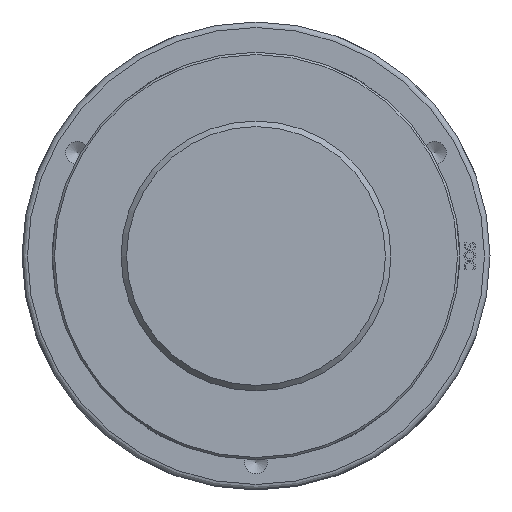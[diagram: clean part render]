
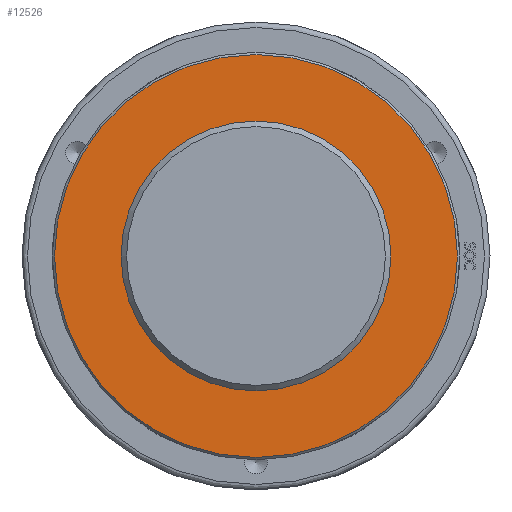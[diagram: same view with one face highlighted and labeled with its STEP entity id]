
A CAD part, front view. The second image highlights one B-rep face of the part: STEP entity #12526.
In plain terms, the highlighted planar face has unit normal (0, -1, 0) as drawn and (0, 1, 0) by its records, which use the part's own axes.
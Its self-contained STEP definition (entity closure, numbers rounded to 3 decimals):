
#90=CIRCLE('',#13195,183.);
#92=CIRCLE('',#13199,119.253);
#173=FACE_BOUND('',#1685,.T.);
#427=PLANE('',#13198);
#926=FACE_OUTER_BOUND('',#1684,.T.);
#1684=EDGE_LOOP('',(#9956));
#1685=EDGE_LOOP('',(#9957));
#5678=VERTEX_POINT('',#19082);
#5692=VERTEX_POINT('',#19322);
#7219=EDGE_CURVE('',#5678,#5678,#90,.T.);
#7233=EDGE_CURVE('',#5692,#5692,#92,.T.);
#9956=ORIENTED_EDGE('',*,*,#7219,.F.);
#9957=ORIENTED_EDGE('',*,*,#7233,.T.);
#12526=ADVANCED_FACE('',(#926,#173),#427,.T.);
#13195=AXIS2_PLACEMENT_3D('',#19083,#14450,#14451);
#13198=AXIS2_PLACEMENT_3D('',#19321,#14456,#14457);
#13199=AXIS2_PLACEMENT_3D('',#19323,#14458,#14459);
#14450=DIRECTION('center_axis',(0.,-1.,0.));
#14451=DIRECTION('ref_axis',(1.,0.,0.));
#14456=DIRECTION('center_axis',(0.,1.,0.));
#14457=DIRECTION('ref_axis',(0.,0.,1.));
#14458=DIRECTION('center_axis',(0.,-1.,0.));
#14459=DIRECTION('ref_axis',(1.,0.,0.));
#19082=CARTESIAN_POINT('',(-183.,122.5,0.));
#19083=CARTESIAN_POINT('Origin',(0.,122.5,0.));
#19321=CARTESIAN_POINT('Origin',(0.,122.5,0.));
#19322=CARTESIAN_POINT('',(-119.253,122.5,0.));
#19323=CARTESIAN_POINT('Origin',(0.,122.5,0.));
